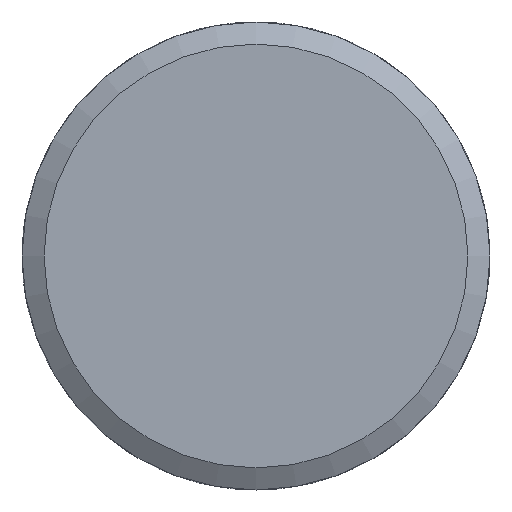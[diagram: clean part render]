
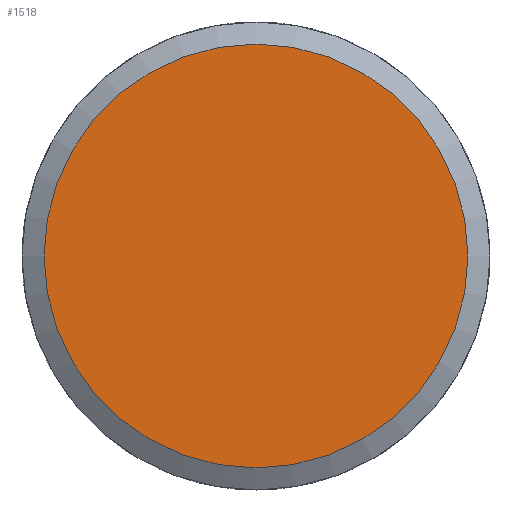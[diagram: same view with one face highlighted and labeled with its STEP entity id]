
A CAD part, left-side view. The second image highlights one B-rep face of the part: STEP entity #1518.
In plain terms, the highlighted planar face has unit normal (-1, 0, 0).
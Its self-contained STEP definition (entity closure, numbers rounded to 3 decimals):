
#55=PLANE('',#1694);
#366=CIRCLE('',#1695,8.15);
#367=CIRCLE('',#1696,8.15);
#442=FACE_OUTER_BOUND('',#528,.T.);
#528=EDGE_LOOP('',(#1278,#1279));
#711=VERTEX_POINT('',#3453);
#712=VERTEX_POINT('',#3454);
#913=EDGE_CURVE('',#711,#712,#366,.T.);
#914=EDGE_CURVE('',#712,#711,#367,.T.);
#1278=ORIENTED_EDGE('',*,*,#913,.F.);
#1279=ORIENTED_EDGE('',*,*,#914,.F.);
#1518=ADVANCED_FACE('',(#442),#55,.F.);
#1694=AXIS2_PLACEMENT_3D('',#3452,#2063,#2064);
#1695=AXIS2_PLACEMENT_3D('',#3455,#2065,#2066);
#1696=AXIS2_PLACEMENT_3D('',#3456,#2067,#2068);
#2063=DIRECTION('center_axis',(1.,0.,0.));
#2064=DIRECTION('ref_axis',(0.,0.,1.));
#2065=DIRECTION('center_axis',(1.,0.,0.));
#2066=DIRECTION('ref_axis',(0.,0.,1.));
#2067=DIRECTION('center_axis',(1.,0.,0.));
#2068=DIRECTION('ref_axis',(0.,0.,1.));
#3452=CARTESIAN_POINT('Origin',(-9.622,-6.445,-16.077));
#3453=CARTESIAN_POINT('',(-9.622,-14.595,-20.204));
#3454=CARTESIAN_POINT('',(-9.622,1.705,-20.204));
#3455=CARTESIAN_POINT('Origin',(-9.622,-6.445,-20.204));
#3456=CARTESIAN_POINT('Origin',(-9.622,-6.445,-20.204));
